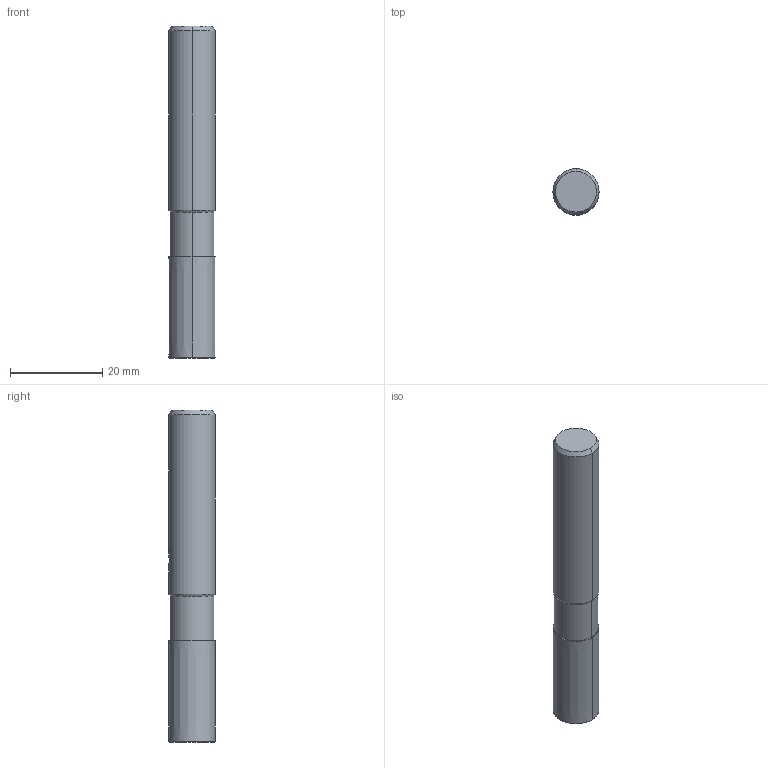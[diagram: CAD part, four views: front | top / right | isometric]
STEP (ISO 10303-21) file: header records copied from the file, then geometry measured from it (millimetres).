
FILE_DESCRIPTION(('no description'),'unknown implementation level');
FILE_NAME('solidg92U2gL_d9rblwRQ_TF3h_pWcZI_1.STP',' ',('CIMSOURCE GmbH'),('CADClick - KiM GmbH - www.kimweb.de'),'unknown preprocess','ACIS','unknown authorization');
FILE_SCHEMA(('automotive_design'));
Length unit declared in the file: millimetre
Products named in the file (2): NOCUT; CUT
Bounding box: 10 x 10 x 72 mm (x, y, z)
Volume: 5566.9 mm3; surface area: 3141 mm2
Topology: 2 solids, 2 shells, 39 faces, 89 edges, 56 vertices
Faces by surface type: cylinder 16, cone 12, plane 11
Entity records: 2426 total; most frequent: CARTESIAN_POINT 440, DIRECTION 201, STYLED_ITEM 186, PRESENTATION_STYLE_ASSIGNMENT 186, COLOUR_RGB 186, ORIENTED_EDGE 178, EDGE_CURVE 89, CURVE_STYLE 89
